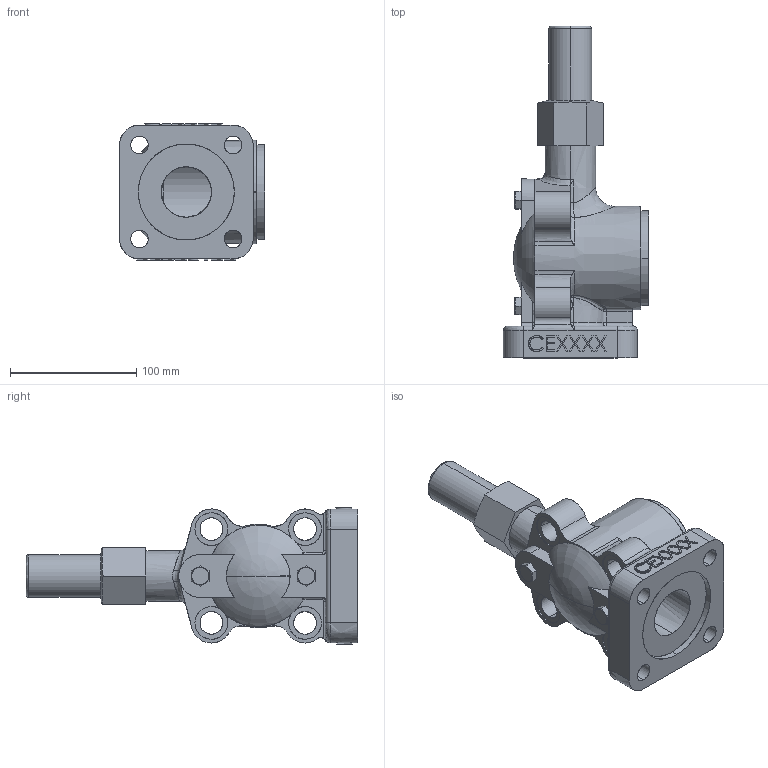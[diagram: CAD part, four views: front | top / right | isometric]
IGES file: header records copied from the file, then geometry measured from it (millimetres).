
Start section: SolidWorks IGES file using analytic representation for surfaces
Bounding box: 115 x 263 x 108 mm (x, y, z)
Surface area: 121457.6 mm2 (no closed solid volume)
Topology: 0 solids, 0 shells, 402 faces, 5643 edges, 5638 vertices
Faces by surface type: bspline 279, revolution 123
